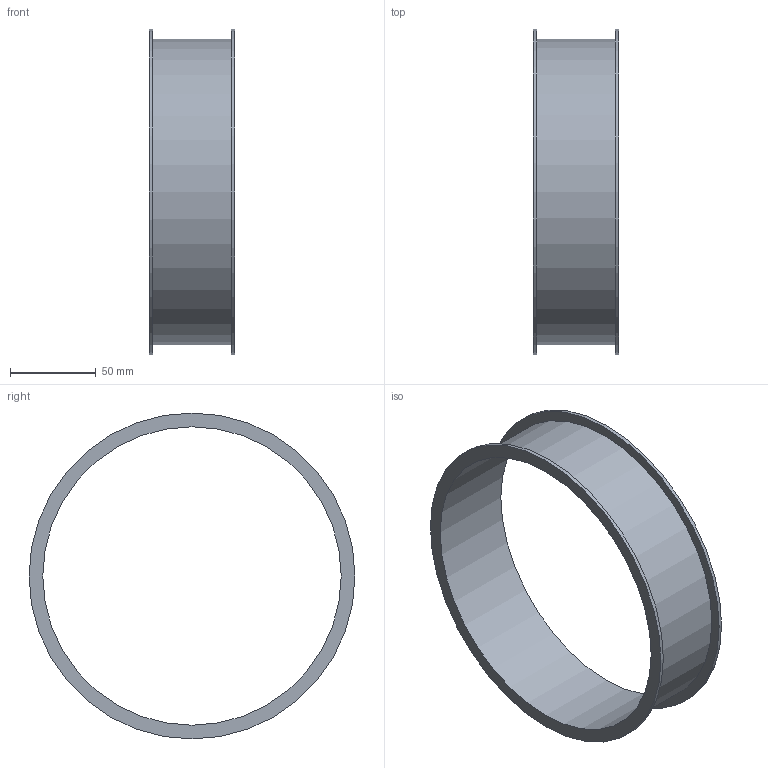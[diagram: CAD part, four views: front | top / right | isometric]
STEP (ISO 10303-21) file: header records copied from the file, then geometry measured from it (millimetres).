
FILE_DESCRIPTION((''),'2;1');
FILE_NAME('U:\Wolfgang\Marcel-3D\fertig\Kapitel 1\1721005.stp','2010-05-31T11:13:12',('TK2'),(''),'Autodesk Inventor 2010','Autodesk Inventor 2010','');
FILE_SCHEMA(('AUTOMOTIVE_DESIGN { 1 0 10303 214 1 1 1 1 }'));
Length unit declared in the file: millimetre
Products named in the file (1): 1721005
Bounding box: 50 x 190 x 190 mm (x, y, z)
Volume: 69165.3 mm3; surface area: 71527.8 mm2
Topology: 1 solids, 1 shells, 8 faces, 12 edges, 8 vertices
Faces by surface type: cylinder 4, plane 4
Full cylindrical faces by diameter (mm): 174 x1, 178 x1, 190 x2
Entity records: 194 total; most frequent: DIRECTION 34, CARTESIAN_POINT 25, AXIS2_PLACEMENT_3D 17, ORIENTED_EDGE 16, EDGE_LOOP 16, VERTEX_POINT 8, CIRCLE 8, EDGE_CURVE 8
